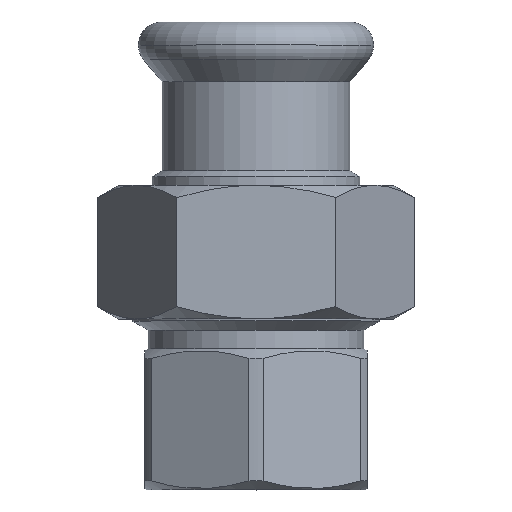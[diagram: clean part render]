
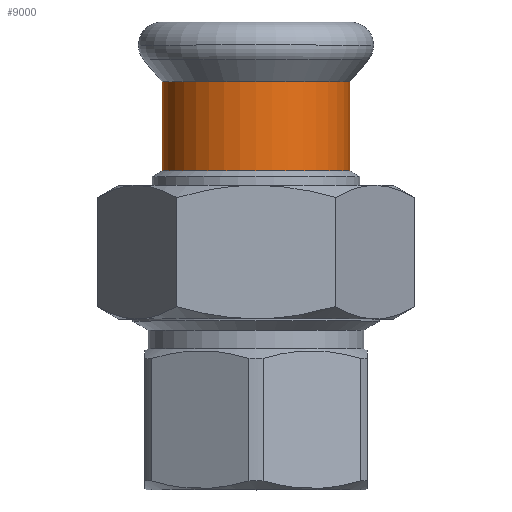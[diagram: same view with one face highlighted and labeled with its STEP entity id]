
A CAD part, top view. The second image highlights one B-rep face of the part: STEP entity #9000.
In plain terms, the highlighted cylindrical face has radius 12.65 mm (diameter 25.3 mm), a partial arc.
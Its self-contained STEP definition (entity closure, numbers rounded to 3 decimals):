
#8590=CARTESIAN_POINT('',(-319.291,50.141,0.));
#8600=DIRECTION('',(0.,-1.,0.));
#8610=DIRECTION('',(-1.,0.,0.));
#8620=AXIS2_PLACEMENT_3D('',#8590,#8600,#8610);
#8630=CYLINDRICAL_SURFACE('',#8620,12.65);
#8640=CARTESIAN_POINT('',(-331.941,50.141,0.));
#8650=DIRECTION('',(0.,-1.,0.));
#8660=VECTOR('',#8650,1.);
#8670=LINE('',#8640,#8660);
#8680=CARTESIAN_POINT('',(-331.941,56.893,0.));
#8690=VERTEX_POINT('',#8680);
#8700=CARTESIAN_POINT('',(-331.941,44.906,0.));
#8710=VERTEX_POINT('',#8700);
#8720=EDGE_CURVE('',#8690,#8710,#8670,.T.);
#8730=ORIENTED_EDGE('',*,*,#8720,.T.);
#8740=CARTESIAN_POINT('',(-319.291,56.893,0.));
#8750=DIRECTION('',(0.,1.,0.));
#8760=DIRECTION('',(-1.,0.,0.));
#8770=AXIS2_PLACEMENT_3D('',#8740,#8750,#8760);
#8780=CIRCLE('',#8770,12.65);
#8790=CARTESIAN_POINT('',(-306.641,56.893,
0.));
#8800=VERTEX_POINT('',#8790);
#8810=EDGE_CURVE('',#8690,#8800,#8780,.T.);
#8820=ORIENTED_EDGE('',*,*,#8810,.F.);
#8830=CARTESIAN_POINT('',(-306.641,50.141,
0.));
#8840=DIRECTION('',(0.,-1.,0.));
#8850=VECTOR('',#8840,1.);
#8860=LINE('',#8830,#8850);
#8870=CARTESIAN_POINT('',(-306.641,44.906,
0.));
#8880=VERTEX_POINT('',#8870);
#8890=EDGE_CURVE('',#8800,#8880,#8860,.T.);
#8900=ORIENTED_EDGE('',*,*,#8890,.F.);
#8910=CARTESIAN_POINT('',(-319.291,44.906,0.));
#8920=DIRECTION('',(0.,-1.,0.));
#8930=DIRECTION('',(-1.,0.,0.));
#8940=AXIS2_PLACEMENT_3D('',#8910,#8920,#8930);
#8950=CIRCLE('',#8940,12.65);
#8960=EDGE_CURVE('',#8880,#8710,#8950,.T.);
#8970=ORIENTED_EDGE('',*,*,#8960,.F.);
#8980=EDGE_LOOP('',(#8970,#8900,#8820,#8730));
#8990=FACE_OUTER_BOUND('',#8980,.T.);
#9000=ADVANCED_FACE('',(#8990),#8630,.T.);
